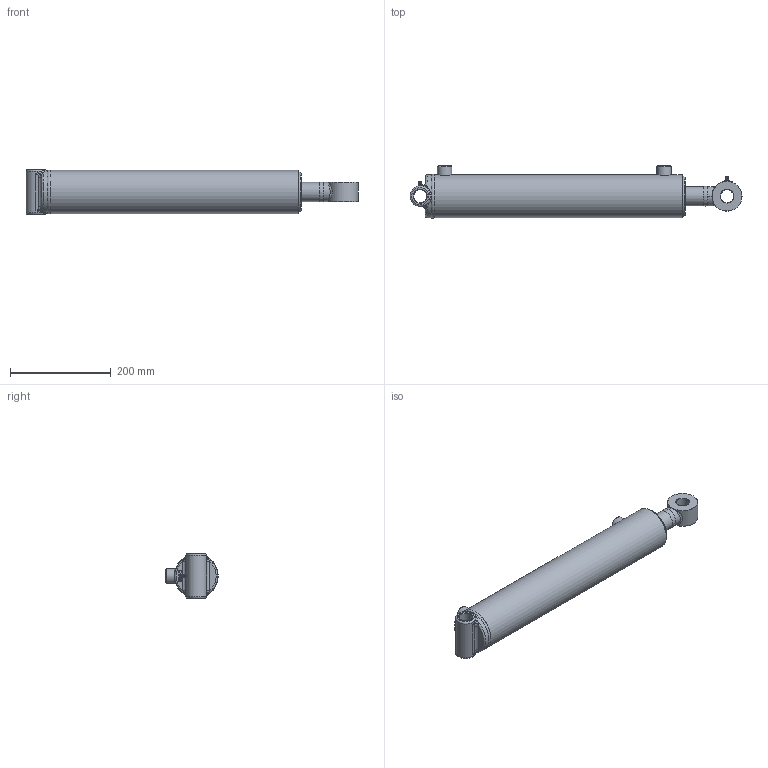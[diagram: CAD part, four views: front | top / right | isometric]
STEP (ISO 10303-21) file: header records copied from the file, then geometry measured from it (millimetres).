
FILE_DESCRIPTION(/* description */ ('Ø3.00 X 16.00 DA'),/* implementation_level */ '2;1');
FILE_NAME(/* name */ 'result.stp',/* time_stamp */ '2024-05-22T16:46:21Z',/* author */ ('AJC'),/* organization */ ('PRINCE MANUFACTURING'),/* preprocessor_version */ 'ST-DEVELOPER v20',/* originating_system */ 'Autodesk Inventor 2024',/* authorisation */ '');
FILE_SCHEMA (('AUTOMOTIVE_DESIGN { 1 0 10303 214 3 1 1 }'));
Length unit declared in the file: inch
Products named in the file (21): PC3016015A00-240XTXS; 0615-XTSF000-19507; 0515-T-19507; 161500198; 200015603; 06Weld1_C360; 0715-P-100; 220000210; 0815-G-150; 230025104; 230025004; 240000022; 240061334; 240000334; 0208A-HAW2-21813XS; 0108A-HAW2-21813; 210400772; 02Weld_C360; 240020059; 250014150; 270010020
Assembly tree (22 placements, depth 3):
  PC3016015A00-240XTXS
    0615-XTSF000-19507
      0515-T-19507
      161500198
      200015603  x2
      06Weld1_C360
    0715-P-100
    220000210
    0815-G-150
    230025104
    230025004
    240000022
    240061334
    240000334
    0208A-HAW2-21813XS
      0108A-HAW2-21813
      210400772
      02Weld_C360
    240020059
    250014150
    270010020  x2
Bounding box: 659.64 x 104.04 x 88.9 mm (x, y, z)
Volume: 1698042 mm3; surface area: 474866.4 mm2
Topology: 26 solids, 26 shells, 564 faces, 1375 edges, 870 vertices
Faces by surface type: bspline 162, plane 135, torus 95, cylinder 84, cone 84, sphere 4
Full cylindrical faces by diameter (mm): 2.143 x4, 3.175 x1, 5.359 x2, 6.35 x2, 9.525 x2, 12.649 x1, 12.7 x1, 12.725 x1, 17.323 x2, 23.444 x1, 25.349 x1, 25.476 x1, 25.781 x1, 26.162 x1, 27.965 x1, 28.575 x2, 38.1 x1, 38.176 x2, 39.294 x2, 40.132 x1, 40.488 x1, 45.263 x1, 46.457 x1, 47.65 x1, 49.276 x2, 50.8 x2, 61.976 x1, 63.5 x2, 66.777 x2, 67.513 x2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
Entity records: 35075 total; most frequent: CARTESIAN_POINT 22422, ORIENTED_EDGE 2512, DIRECTION 2178, EDGE_CURVE 1256, AXIS2_PLACEMENT_3D 915, VERTEX_POINT 809, EDGE_LOOP 595, FACE_OUTER_BOUND 520
